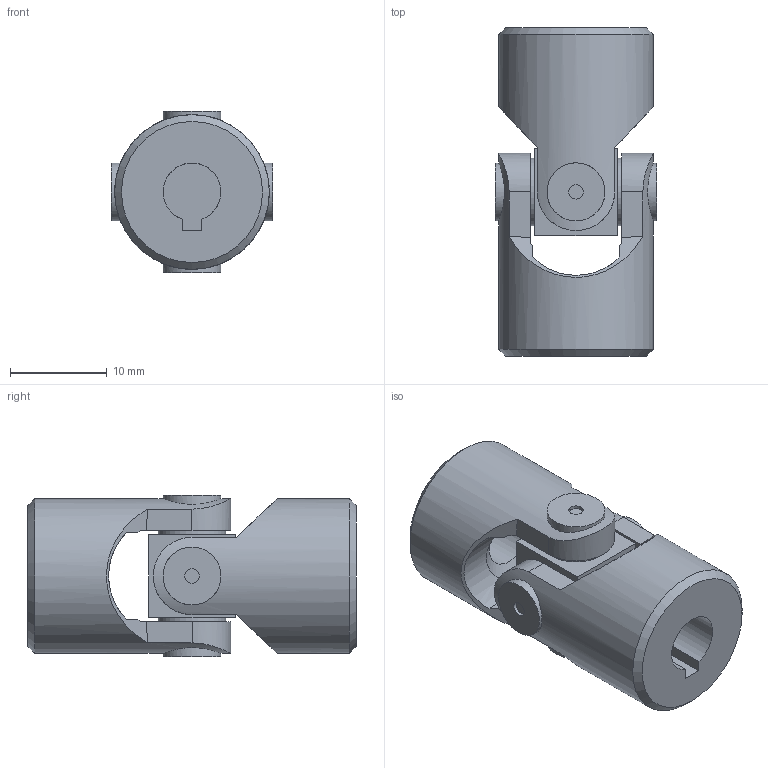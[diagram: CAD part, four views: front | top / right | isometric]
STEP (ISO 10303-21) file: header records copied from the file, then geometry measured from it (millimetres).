
FILE_DESCRIPTION(/* description */ ('EXTENSIBLE TRANSIMISSIONS Series G DIN 808 -2-'),/* implementation_level */ '2;1');
FILE_NAME(/* name */ '\\SRV2016\societa\Stefano\Disegni 3D\Dis. Clienti\0000Catalogo 3D\01Singoli G-GB\SG0S061C.stp',/* time_stamp */ '2021-11-08T12:58:54+01:00',/* author */ ('acquisti'),/* organization */ ('MARIOFERRI'),/* preprocessor_version */ 'ST-DEVELOPER v15.6',/* originating_system */ 'Autodesk Inventor 2015',/* authorisation */ '');
FILE_SCHEMA (('AUTOMOTIVE_DESIGN { 1 0 10303 214 3 1 1 }'));
Length unit declared in the file: millimetre
Products named in the file (4): 01-02G SFE; 01G MOS; 01G MOC; Assieme1
Assembly tree (3 placements, depth 2):
  Assieme1
    01-02G SFE
    01G MOS
    01G MOC
Bounding box: 16.7 x 34 x 16.7 mm (x, y, z)
Volume: 4890.6 mm3; surface area: 3359.6 mm2
Topology: 3 solids, 3 shells, 75 faces, 185 edges, 126 vertices
Faces by surface type: plane 39, cylinder 22, cone 12, torus 2
Full cylindrical faces by diameter (mm): 1.5 x4, 6 x5, 7 x4, 8.5 x2, 16 x2
Entity records: 2451 total; most frequent: CARTESIAN_POINT 814, DIRECTION 315, ORIENTED_EDGE 300, EDGE_CURVE 150, AXIS2_PLACEMENT_3D 136, VERTEX_POINT 114, EDGE_LOOP 112, FACE_OUTER_BOUND 75
